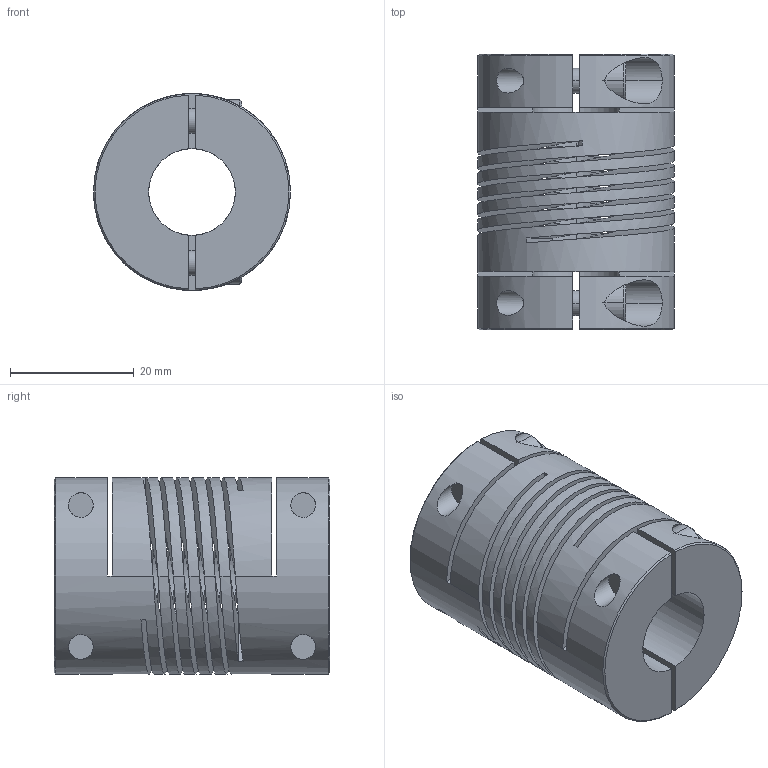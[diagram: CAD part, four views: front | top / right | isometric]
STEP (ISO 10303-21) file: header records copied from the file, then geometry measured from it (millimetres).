
FILE_DESCRIPTION((''),'2;1');
FILE_NAME('721_32','2006-12-05T',('Gary Melling'),(''),'PRO/ENGINEER BY PARAMETRIC TECHNOLOGY CORPORATION, 2006240','PRO/ENGINEER BY PARAMETRIC TECHNOLOGY CORPORATION, 2006240','');
FILE_SCHEMA(('CONFIG_CONTROL_DESIGN'));
Length unit declared in the file: millimetre
Products named in the file (1): 721_32
Bounding box: 31.8 x 44.5 x 31.8 mm (x, y, z)
Volume: 23385.7 mm3; surface area: 17542.5 mm2
Topology: 1 solids, 1 shells, 150 faces, 388 edges, 250 vertices
Faces by surface type: plane 72, cylinder 60, cone 12, bspline 6
Entity records: 6584 total; most frequent: CARTESIAN_POINT 2956, ORIENTED_EDGE 776, DIRECTION 682, EDGE_CURVE 388, VERTEX_POINT 250, AXIS2_PLACEMENT_3D 236, VECTOR 210, LINE 210
